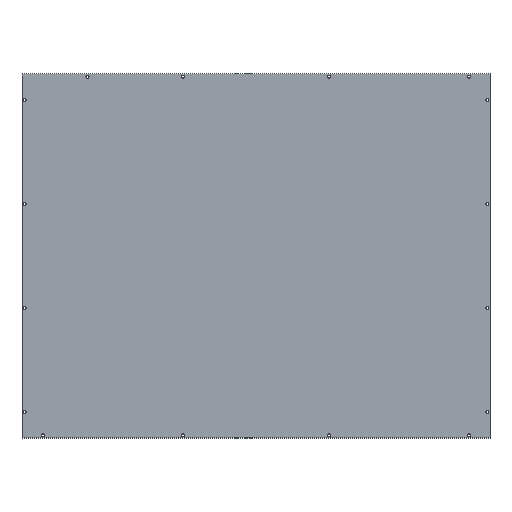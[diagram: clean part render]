
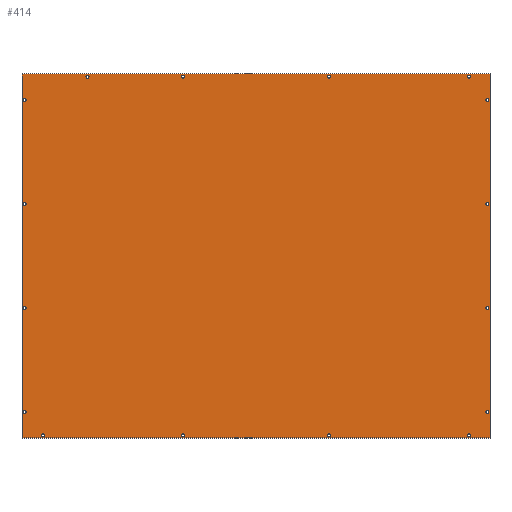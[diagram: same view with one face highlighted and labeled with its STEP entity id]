
A CAD part, top view. The second image highlights one B-rep face of the part: STEP entity #414.
In plain terms, the highlighted planar face has unit normal (0, 0, 1).
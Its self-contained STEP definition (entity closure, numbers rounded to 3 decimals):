
#36=CIRCLE('',#450,3.);
#37=CIRCLE('',#451,3.);
#38=CIRCLE('',#452,3.);
#39=CIRCLE('',#453,3.);
#40=CIRCLE('',#454,3.);
#41=CIRCLE('',#455,3.);
#42=CIRCLE('',#456,3.);
#43=CIRCLE('',#457,3.);
#44=CIRCLE('',#458,3.);
#45=CIRCLE('',#459,3.);
#46=CIRCLE('',#460,3.);
#47=CIRCLE('',#461,3.);
#48=CIRCLE('',#462,3.);
#49=CIRCLE('',#463,3.);
#50=CIRCLE('',#464,3.);
#51=CIRCLE('',#465,3.);
#84=ORIENTED_EDGE('',*,*,#168,.F.);
#85=ORIENTED_EDGE('',*,*,#169,.F.);
#86=ORIENTED_EDGE('',*,*,#170,.F.);
#87=ORIENTED_EDGE('',*,*,#171,.F.);
#88=ORIENTED_EDGE('',*,*,#172,.F.);
#89=ORIENTED_EDGE('',*,*,#173,.F.);
#90=ORIENTED_EDGE('',*,*,#174,.F.);
#91=ORIENTED_EDGE('',*,*,#175,.F.);
#92=ORIENTED_EDGE('',*,*,#176,.F.);
#93=ORIENTED_EDGE('',*,*,#177,.F.);
#94=ORIENTED_EDGE('',*,*,#178,.F.);
#95=ORIENTED_EDGE('',*,*,#179,.F.);
#96=ORIENTED_EDGE('',*,*,#180,.F.);
#97=ORIENTED_EDGE('',*,*,#181,.F.);
#98=ORIENTED_EDGE('',*,*,#182,.F.);
#99=ORIENTED_EDGE('',*,*,#183,.F.);
#100=ORIENTED_EDGE('',*,*,#158,.T.);
#101=ORIENTED_EDGE('',*,*,#162,.T.);
#102=ORIENTED_EDGE('',*,*,#165,.T.);
#103=ORIENTED_EDGE('',*,*,#167,.T.);
#158=EDGE_CURVE('',#203,#202,#242,.T.);
#162=EDGE_CURVE('',#202,#205,#246,.T.);
#165=EDGE_CURVE('',#205,#207,#249,.T.);
#167=EDGE_CURVE('',#207,#203,#251,.T.);
#168=EDGE_CURVE('',#208,#208,#36,.T.);
#169=EDGE_CURVE('',#209,#209,#37,.T.);
#170=EDGE_CURVE('',#210,#210,#38,.T.);
#171=EDGE_CURVE('',#211,#211,#39,.T.);
#172=EDGE_CURVE('',#212,#212,#40,.T.);
#173=EDGE_CURVE('',#213,#213,#41,.T.);
#174=EDGE_CURVE('',#214,#214,#42,.T.);
#175=EDGE_CURVE('',#215,#215,#43,.T.);
#176=EDGE_CURVE('',#216,#216,#44,.T.);
#177=EDGE_CURVE('',#217,#217,#45,.T.);
#178=EDGE_CURVE('',#218,#218,#46,.T.);
#179=EDGE_CURVE('',#219,#219,#47,.T.);
#180=EDGE_CURVE('',#220,#220,#48,.T.);
#181=EDGE_CURVE('',#221,#221,#49,.T.);
#182=EDGE_CURVE('',#222,#222,#50,.T.);
#183=EDGE_CURVE('',#223,#223,#51,.T.);
#202=VERTEX_POINT('',#627);
#203=VERTEX_POINT('',#629);
#205=VERTEX_POINT('',#635);
#207=VERTEX_POINT('',#641);
#208=VERTEX_POINT('',#648);
#209=VERTEX_POINT('',#650);
#210=VERTEX_POINT('',#652);
#211=VERTEX_POINT('',#654);
#212=VERTEX_POINT('',#656);
#213=VERTEX_POINT('',#658);
#214=VERTEX_POINT('',#660);
#215=VERTEX_POINT('',#662);
#216=VERTEX_POINT('',#664);
#217=VERTEX_POINT('',#666);
#218=VERTEX_POINT('',#668);
#219=VERTEX_POINT('',#670);
#220=VERTEX_POINT('',#672);
#221=VERTEX_POINT('',#674);
#222=VERTEX_POINT('',#676);
#223=VERTEX_POINT('',#678);
#242=LINE('',#628,#254);
#246=LINE('',#636,#258);
#249=LINE('',#642,#261);
#251=LINE('',#645,#263);
#254=VECTOR('',#505,1000.);
#258=VECTOR('',#511,1000.);
#261=VECTOR('',#516,1000.);
#263=VECTOR('',#520,1000.);
#268=EDGE_LOOP('',(#84));
#269=EDGE_LOOP('',(#85));
#270=EDGE_LOOP('',(#86));
#271=EDGE_LOOP('',(#87));
#272=EDGE_LOOP('',(#88));
#273=EDGE_LOOP('',(#89));
#274=EDGE_LOOP('',(#90));
#275=EDGE_LOOP('',(#91));
#276=EDGE_LOOP('',(#92));
#277=EDGE_LOOP('',(#93));
#278=EDGE_LOOP('',(#94));
#279=EDGE_LOOP('',(#95));
#280=EDGE_LOOP('',(#96));
#281=EDGE_LOOP('',(#97));
#282=EDGE_LOOP('',(#98));
#283=EDGE_LOOP('',(#99));
#284=EDGE_LOOP('',(#100,#101,#102,#103));
#338=FACE_BOUND('',#268,.T.);
#339=FACE_BOUND('',#269,.T.);
#340=FACE_BOUND('',#270,.T.);
#341=FACE_BOUND('',#271,.T.);
#342=FACE_BOUND('',#272,.T.);
#343=FACE_BOUND('',#273,.T.);
#344=FACE_BOUND('',#274,.T.);
#345=FACE_BOUND('',#275,.T.);
#346=FACE_BOUND('',#276,.T.);
#347=FACE_BOUND('',#277,.T.);
#348=FACE_BOUND('',#278,.T.);
#349=FACE_BOUND('',#279,.T.);
#350=FACE_BOUND('',#280,.T.);
#351=FACE_BOUND('',#281,.T.);
#352=FACE_BOUND('',#282,.T.);
#353=FACE_BOUND('',#283,.T.);
#354=FACE_BOUND('',#284,.T.);
#408=PLANE('',#449);
#414=ADVANCED_FACE('',(#338,#339,#340,#341,#342,#343,#344,#345,#346,#347,
#348,#349,#350,#351,#352,#353,#354),#408,.F.);
#449=AXIS2_PLACEMENT_3D('',#646,#521,#522);
#450=AXIS2_PLACEMENT_3D('',#647,#523,#524);
#451=AXIS2_PLACEMENT_3D('',#649,#525,#526);
#452=AXIS2_PLACEMENT_3D('',#651,#527,#528);
#453=AXIS2_PLACEMENT_3D('',#653,#529,#530);
#454=AXIS2_PLACEMENT_3D('',#655,#531,#532);
#455=AXIS2_PLACEMENT_3D('',#657,#533,#534);
#456=AXIS2_PLACEMENT_3D('',#659,#535,#536);
#457=AXIS2_PLACEMENT_3D('',#661,#537,#538);
#458=AXIS2_PLACEMENT_3D('',#663,#539,#540);
#459=AXIS2_PLACEMENT_3D('',#665,#541,#542);
#460=AXIS2_PLACEMENT_3D('',#667,#543,#544);
#461=AXIS2_PLACEMENT_3D('',#669,#545,#546);
#462=AXIS2_PLACEMENT_3D('',#671,#547,#548);
#463=AXIS2_PLACEMENT_3D('',#673,#549,#550);
#464=AXIS2_PLACEMENT_3D('',#675,#551,#552);
#465=AXIS2_PLACEMENT_3D('',#677,#553,#554);
#505=DIRECTION('',(0.,1.,0.));
#511=DIRECTION('',(-1.,0.,0.));
#516=DIRECTION('',(0.,-1.,0.));
#520=DIRECTION('',(1.,0.,0.));
#521=DIRECTION('',(0.,0.,-1.));
#522=DIRECTION('',(-1.,0.,0.));
#523=DIRECTION('',(0.,0.,1.));
#524=DIRECTION('',(1.,0.,0.));
#525=DIRECTION('',(0.,0.,1.));
#526=DIRECTION('',(1.,0.,0.));
#527=DIRECTION('',(0.,0.,1.));
#528=DIRECTION('',(1.,0.,0.));
#529=DIRECTION('',(0.,0.,1.));
#530=DIRECTION('',(1.,0.,0.));
#531=DIRECTION('',(0.,0.,1.));
#532=DIRECTION('',(1.,0.,0.));
#533=DIRECTION('',(0.,0.,1.));
#534=DIRECTION('',(1.,0.,0.));
#535=DIRECTION('',(0.,0.,1.));
#536=DIRECTION('',(1.,0.,0.));
#537=DIRECTION('',(0.,0.,1.));
#538=DIRECTION('',(1.,0.,0.));
#539=DIRECTION('',(0.,0.,1.));
#540=DIRECTION('',(1.,0.,0.));
#541=DIRECTION('',(0.,0.,1.));
#542=DIRECTION('',(1.,0.,0.));
#543=DIRECTION('',(0.,0.,1.));
#544=DIRECTION('',(1.,0.,0.));
#545=DIRECTION('',(0.,0.,1.));
#546=DIRECTION('',(1.,0.,0.));
#547=DIRECTION('',(0.,0.,1.));
#548=DIRECTION('',(1.,0.,0.));
#549=DIRECTION('',(0.,0.,1.));
#550=DIRECTION('',(1.,0.,0.));
#551=DIRECTION('',(0.,0.,1.));
#552=DIRECTION('',(1.,0.,0.));
#553=DIRECTION('',(0.,0.,1.));
#554=DIRECTION('',(1.,0.,0.));
#627=CARTESIAN_POINT('',(450.,350.,10.));
#628=CARTESIAN_POINT('',(450.,-350.,10.));
#629=CARTESIAN_POINT('',(450.,-350.,10.));
#635=CARTESIAN_POINT('',(-450.,350.,10.));
#636=CARTESIAN_POINT('',(-450.,350.,10.));
#641=CARTESIAN_POINT('',(-450.,-350.,10.));
#642=CARTESIAN_POINT('',(-450.,-350.,10.));
#645=CARTESIAN_POINT('',(-450.,-350.,10.));
#646=CARTESIAN_POINT('',(0.,0.,10.));
#647=CARTESIAN_POINT('',(-445.,300.,10.));
#648=CARTESIAN_POINT('',(-442.,300.,10.));
#649=CARTESIAN_POINT('',(-445.,100.,10.));
#650=CARTESIAN_POINT('',(-442.,100.,10.));
#651=CARTESIAN_POINT('',(-445.,-100.,10.));
#652=CARTESIAN_POINT('',(-442.,-100.,10.));
#653=CARTESIAN_POINT('',(-445.,-300.,10.));
#654=CARTESIAN_POINT('',(-442.,-300.,10.));
#655=CARTESIAN_POINT('',(-410.,-345.,10.));
#656=CARTESIAN_POINT('',(-407.,-345.,10.));
#657=CARTESIAN_POINT('',(-140.,-345.,10.));
#658=CARTESIAN_POINT('',(-137.,-345.,10.));
#659=CARTESIAN_POINT('',(140.,-345.,10.));
#660=CARTESIAN_POINT('',(143.,-345.,10.));
#661=CARTESIAN_POINT('',(410.,-345.,10.));
#662=CARTESIAN_POINT('',(413.,-345.,10.));
#663=CARTESIAN_POINT('',(445.,-300.,10.));
#664=CARTESIAN_POINT('',(448.,-300.,10.));
#665=CARTESIAN_POINT('',(445.,-100.,10.));
#666=CARTESIAN_POINT('',(448.,-100.,10.));
#667=CARTESIAN_POINT('',(445.,100.,10.));
#668=CARTESIAN_POINT('',(448.,100.,10.));
#669=CARTESIAN_POINT('',(445.,300.,10.));
#670=CARTESIAN_POINT('',(448.,300.,10.));
#671=CARTESIAN_POINT('',(410.,345.,10.));
#672=CARTESIAN_POINT('',(413.,345.,10.));
#673=CARTESIAN_POINT('',(140.,345.,10.));
#674=CARTESIAN_POINT('',(143.,345.,10.));
#675=CARTESIAN_POINT('',(-140.,345.,10.));
#676=CARTESIAN_POINT('',(-137.,345.,10.));
#677=CARTESIAN_POINT('',(-324.06,345.,10.));
#678=CARTESIAN_POINT('',(-321.06,345.,10.));
